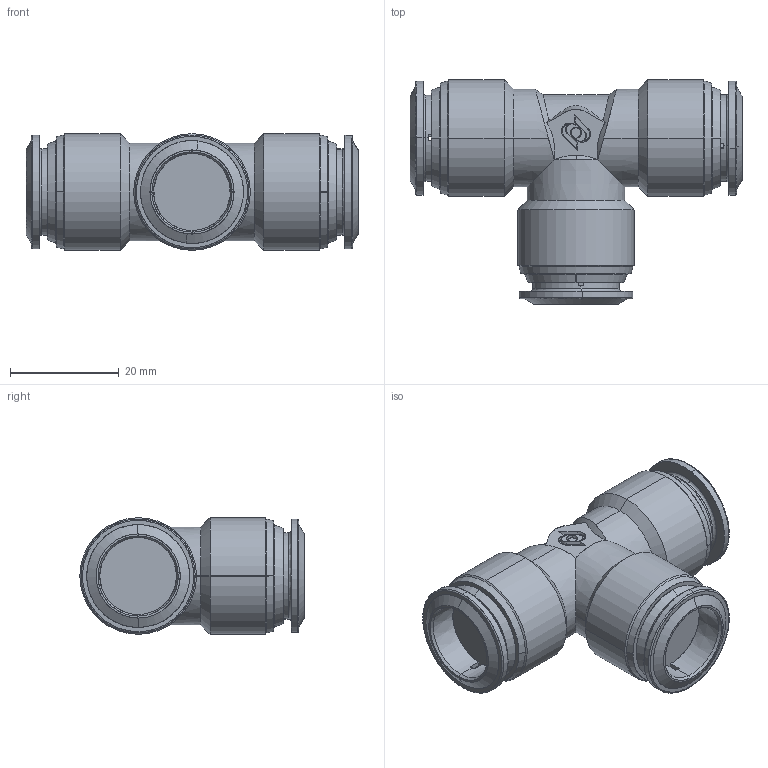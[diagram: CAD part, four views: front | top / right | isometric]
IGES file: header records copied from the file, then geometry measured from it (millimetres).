
Start section: SolidWorks IGES file using analytic representation for surfaces
Global section: file name: K:\Disegni Esecutivi\Serie 57000\ASSIEMI_57000\57230\ASSIEMI_PIENI_57230\5723000008.IGS; native system: SolidWorks 2008; preprocessor: SolidWorks 2008; author: cad02; date: 080212.102330; units: millimetre
Bounding box: 61.2 x 41.35 x 21.5 mm (x, y, z)
Surface area: 7972.1 mm2 (no closed solid volume)
Topology: 0 solids, 0 shells, 188 faces, 2624 edges, 2624 vertices
Faces by surface type: revolution 102, bspline 86
